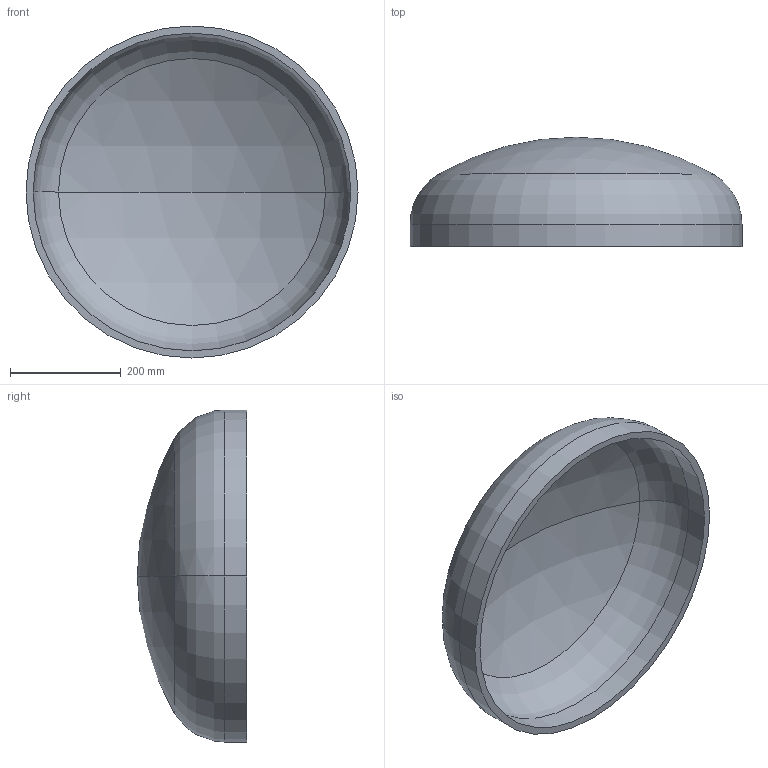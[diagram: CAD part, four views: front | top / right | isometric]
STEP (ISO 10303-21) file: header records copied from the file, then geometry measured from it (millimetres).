
FILE_DESCRIPTION (( 'STEP AP203' ), '1' );
FILE_NAME ('DIN 28013 Korbbogenform_-_Boden DIN 28013 - 600 x 40 - I - s=13.step', '2016-07-01T07:57:35', ( '' ), ( '' ), 'SwSTEP 2.0', 'SolidWorks 2013', '' );
FILE_SCHEMA (( 'CONFIG_CONTROL_DESIGN' ));
Length unit declared in the file: millimetre
Products named in the file (1): DIN 28013 Korbbogenform_-_Boden DIN 28013 - 600 x 40 - I - s=13
Bounding box: 600 x 197.56 x 600 mm (x, y, z)
Volume: 5902429.8 mm3; surface area: 932393.3 mm2
Topology: 1 solids, 1 shells, 13 faces, 24 edges, 14 vertices
Faces by surface type: torus 4, cylinder 4, sphere 4, plane 1
Entity records: 407 total; most frequent: DIRECTION 72, CARTESIAN_POINT 52, ORIENTED_EDGE 48, AXIS2_PLACEMENT_3D 34, EDGE_CURVE 24, CIRCLE 20, VERTEX_POINT 14, EDGE_LOOP 14
